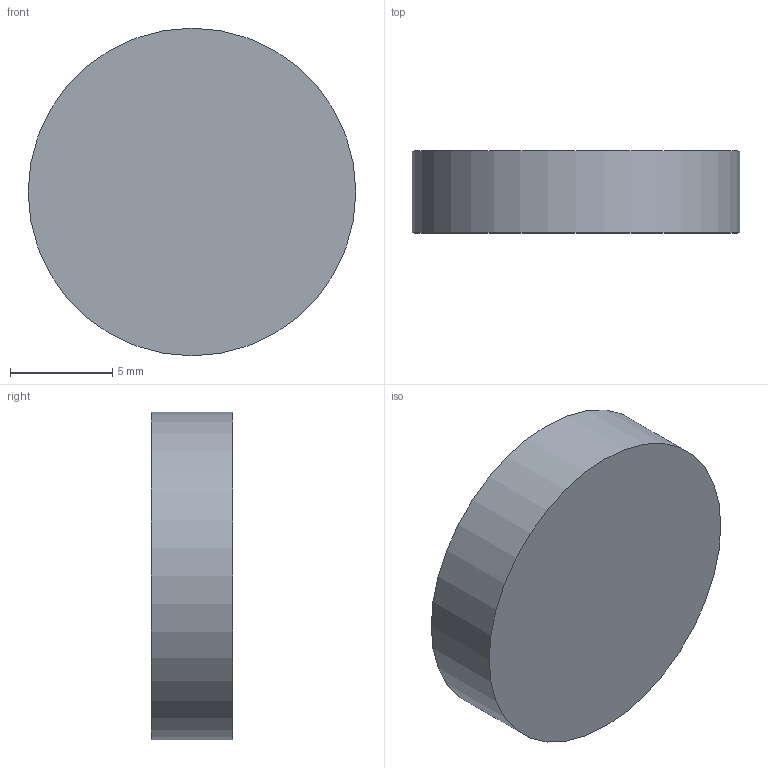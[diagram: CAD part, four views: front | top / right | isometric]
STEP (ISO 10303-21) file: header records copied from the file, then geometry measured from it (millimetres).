
FILE_DESCRIPTION(('Open CASCADE Model'),'2;1');
FILE_NAME('Open CASCADE Shape Model','2026-11-05T01:23:31',('Author'),( 'Open CASCADE'),'Open CASCADE STEP processor 7.8','Open CASCADE 7.8' ,'Unknown');
FILE_SCHEMA(('AUTOMOTIVE_DESIGN { 1 0 10303 214 1 1 1 1 }'));
Length unit declared in the file: millimetre
Products named in the file (1): Open CASCADE STEP translator 7.8 25
Bounding box: 16 x 4 x 16 mm (x, y, z)
Volume: 804.2 mm3; surface area: 603.2 mm2
Topology: 1 solids, 1 shells, 3 faces, 3 edges, 2 vertices
Faces by surface type: plane 2, cylinder 1
Full cylindrical faces by diameter (mm): 16 x1
Entity records: 114 total; most frequent: CARTESIAN_POINT 27, DIRECTION 17, AXIS2_PLACEMENT_3D 6, ORIENTED_EDGE 6, PCURVE 6, DEFINITIONAL_REPRESENTATION 6, LINE 5, VECTOR 5
